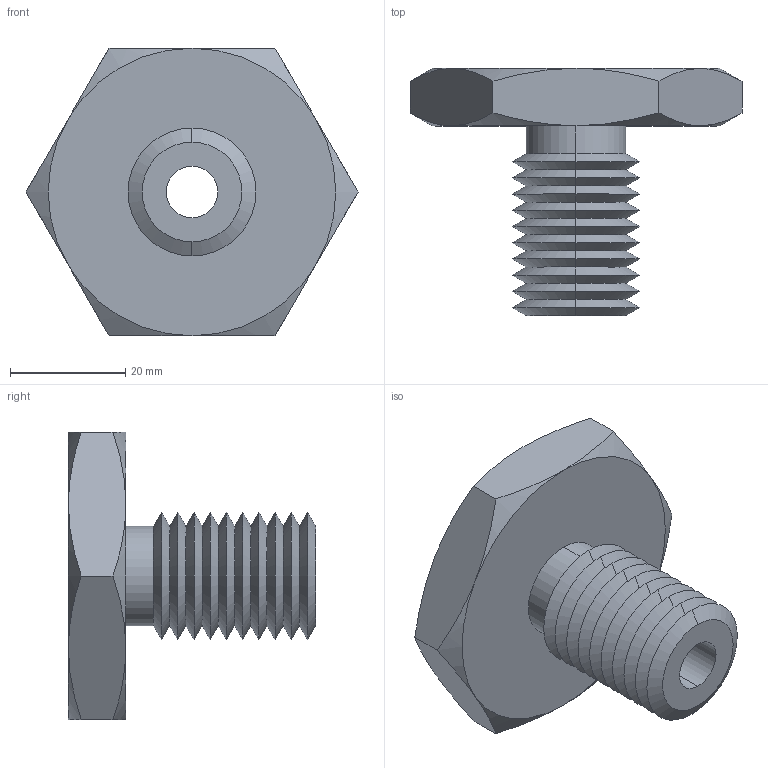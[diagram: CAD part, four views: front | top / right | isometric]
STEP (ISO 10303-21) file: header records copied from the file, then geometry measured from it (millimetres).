
FILE_DESCRIPTION (( 'STEP AP203' ), '1' );
FILE_NAME ('63302.W5088_0,31 UNC-18.step', '2013-12-08T11:37:19', ( 'User' ), ( '' ), 'SwSTEP 2.0', 'SolidWorks 2009', '' );
FILE_SCHEMA (( 'CONFIG_CONTROL_DESIGN' ));
Length unit declared in the file: millimetre
Products named in the file (1): 63302.W5088_0,31 UNC-18
Bounding box: 57.73 x 43 x 50 mm (x, y, z)
Volume: 28499.6 mm3; surface area: 10688.4 mm2
Topology: 1 solids, 1 shells, 67 faces, 138 edges, 74 vertices
Faces by surface type: cone 54, plane 9, cylinder 4
Entity records: 1939 total; most frequent: CARTESIAN_POINT 464, DIRECTION 312, ORIENTED_EDGE 276, EDGE_CURVE 138, AXIS2_PLACEMENT_3D 130, VERTEX_POINT 74, EDGE_LOOP 70, ADVANCED_FACE 67
